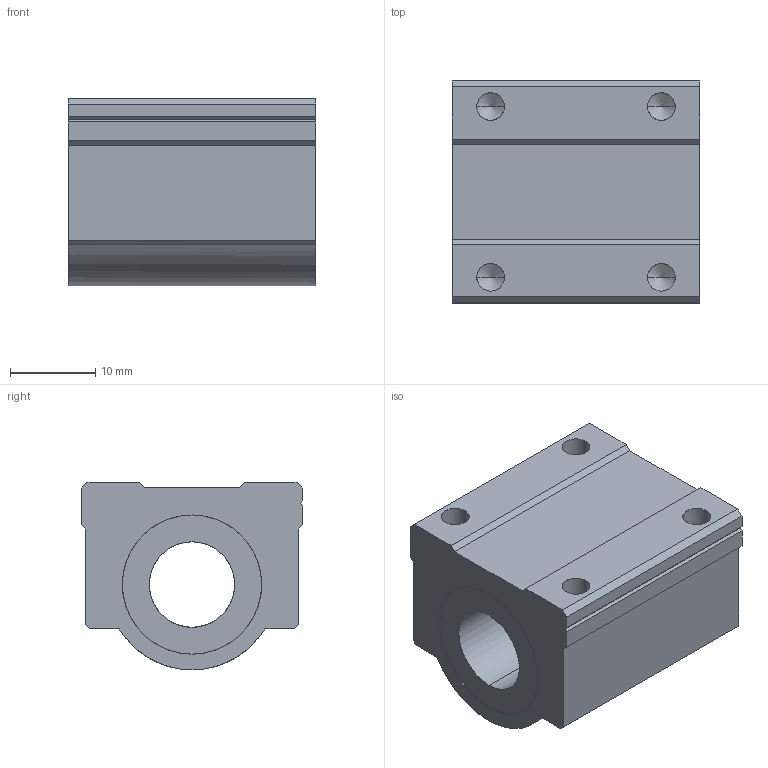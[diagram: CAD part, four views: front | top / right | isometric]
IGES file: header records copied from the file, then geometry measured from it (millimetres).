
Global section: file name: No Iges File Name specified; native system: AutoDesk Inventor R10; preprocessor: AutoDesk Inventor Iges Exporter R10; author: No Author specified; organization: No Organization specified; date: 20101208.101038; units: millimetre
Bounding box: 29 x 26 x 22 mm (x, y, z)
Surface area: 4522.5 mm2 (no closed solid volume)
Topology: 0 solids, 0 shells, 50 faces, 330 edges, 322 vertices
Faces by surface type: bspline 50
